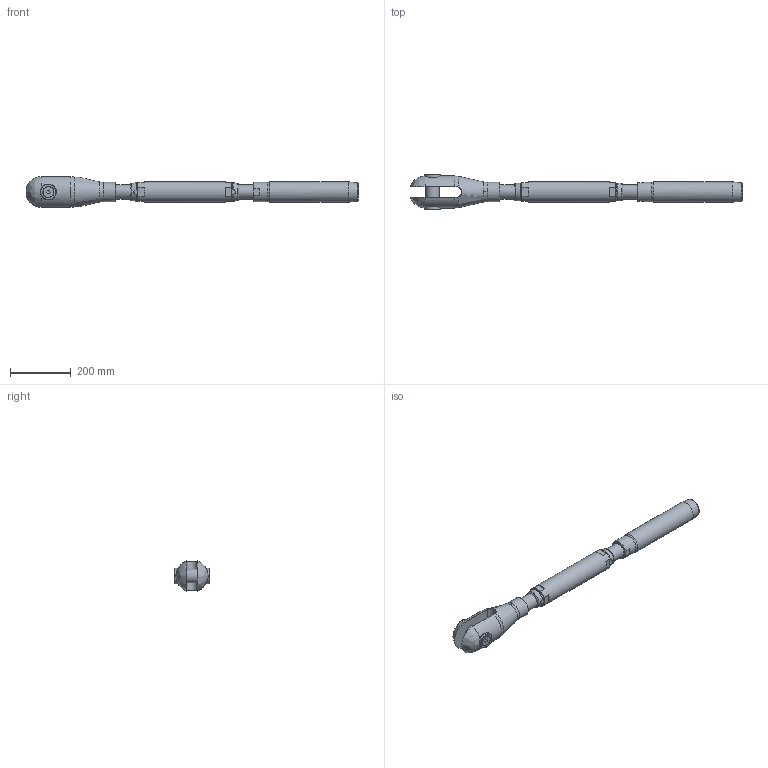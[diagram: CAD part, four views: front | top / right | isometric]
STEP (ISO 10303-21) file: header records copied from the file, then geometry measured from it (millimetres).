
FILE_DESCRIPTION(/* description */ (''),/* implementation_level */ '2;1');
FILE_NAME(/* name */ 'TBC 32_1,4462',/* time_stamp */ '2023-05-23T18:17:18+02:00',/* author */ (''),/* organization */ (''),/* preprocessor_version */ 'ST-DEVELOPER v16.5',/* originating_system */ 'Rhino 7.22',/* authorisation */ '');
FILE_SCHEMA (('CONFIG_CONTROL_DESIGN'));
Length unit declared in the file: millimetre
Products named in the file (1): Document
Bounding box: 1093.19 x 115.01 x 100.4 mm (x, y, z)
Volume: 3868324.7 mm3; surface area: 421583.9 mm2
Topology: 10 solids, 10 shells, 141 faces, 384 edges, 265 vertices
Faces by surface type: plane 65, bspline 41, cylinder 35
Full cylindrical faces by diameter (mm): 17.294 x2, 20 x2, 21 x2, 35.4 x2, 44.752 x4, 45 x1, 47 x2, 48 x2, 51 x2, 52 x1, 63.5 x2, 66.8 x1, 69 x1
Entity records: 5966 total; most frequent: CARTESIAN_POINT 3530, ORIENTED_EDGE 760, EDGE_CURVE 380, VERTEX_POINT 265, EDGE_LOOP 161, B_SPLINE_CURVE_WITH_KNOTS 158, ADVANCED_FACE 141, FACE_OUTER_BOUND 141
